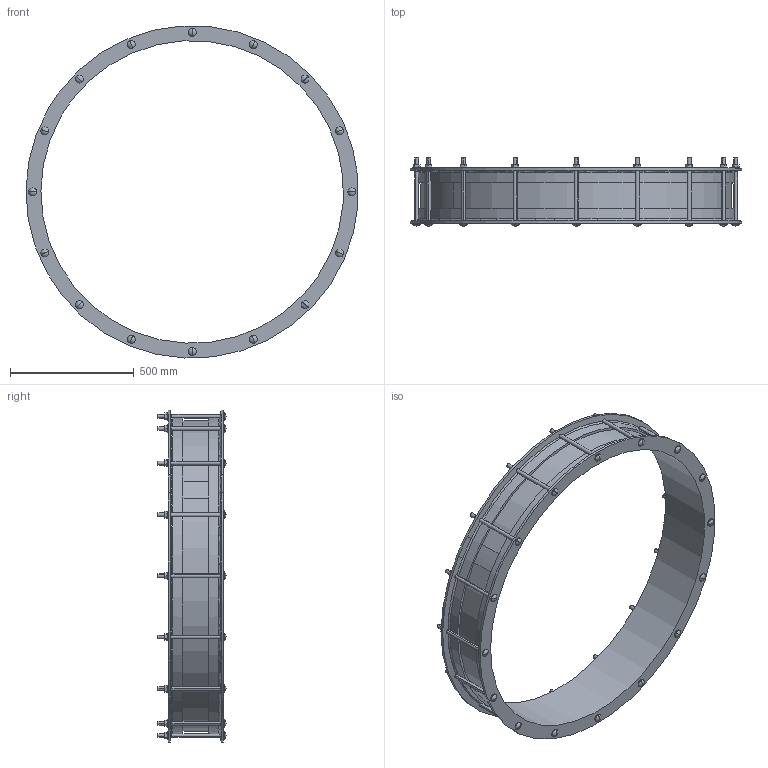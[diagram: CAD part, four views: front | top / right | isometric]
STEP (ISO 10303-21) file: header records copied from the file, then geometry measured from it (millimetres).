
FILE_DESCRIPTION((''),'2;1');
FILE_NAME('A2E_COUP__1222','2018-12-06T',('mfairey'),('Glynwed Pipe Systems'),'CREO PARAMETRIC BY PTC INC, 2016130','CREO PARAMETRIC BY PTC INC, 2016130','');
FILE_SCHEMA(('CONFIG_CONTROL_DESIGN'));
Length unit declared in the file: millimetre
Products named in the file (1): A2E_COUP__1222
Bounding box: 1344.1 x 275.68 x 1344.17 mm (x, y, z)
Volume: 22937933.4 mm3; surface area: 2736674.5 mm2
Topology: 1 solids, 1 shells, 384 faces, 1056 edges, 676 vertices
Faces by surface type: plane 148, cylinder 136, cone 36, torus 32, sphere 32
Entity records: 14999 total; most frequent: CARTESIAN_POINT 5385, ORIENTED_EDGE 2048, DIRECTION 1940, EDGE_CURVE 1024, AXIS2_PLACEMENT_3D 756, VERTEX_POINT 676, EDGE_LOOP 452, VECTOR 428
